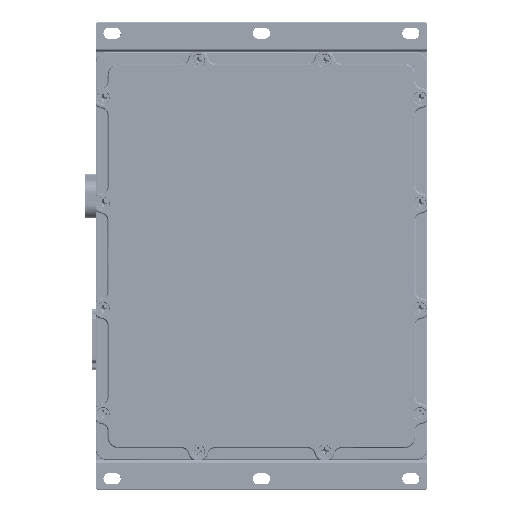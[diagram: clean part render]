
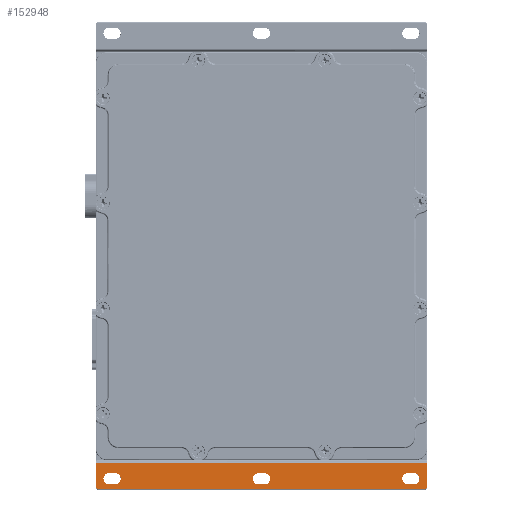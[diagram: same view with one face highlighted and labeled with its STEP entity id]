
A CAD part, top view. The second image highlights one B-rep face of the part: STEP entity #152948.
In plain terms, the highlighted planar face has unit normal (0.018, 0, 1).
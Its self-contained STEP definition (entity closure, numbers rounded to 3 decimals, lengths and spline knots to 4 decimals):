
#1135=ELLIPSE('',#164678,0.04,0.04);
#1136=ELLIPSE('',#164679,0.04,0.04);
#5900=FACE_BOUND('',#22569,.T.);
#5901=FACE_BOUND('',#22570,.T.);
#5902=FACE_BOUND('',#22571,.T.);
#8033=PLANE('',#164677);
#12880=FACE_OUTER_BOUND('',#22568,.T.);
#22568=EDGE_LOOP('',(#111337,#111338,#111339,#111340,#111341,#111342));
#22569=EDGE_LOOP('',(#111343,#111344,#111345,#111346));
#22570=EDGE_LOOP('',(#111347,#111348,#111349,#111350));
#22571=EDGE_LOOP('',(#111351,#111352,#111353,#111354));
#35049=LINE('',#326389,#44349);
#35050=LINE('',#326391,#44350);
#35051=LINE('',#326393,#44351);
#35052=LINE('',#326397,#44352);
#35053=LINE('',#326403,#44353);
#35054=LINE('',#326406,#44354);
#35055=LINE('',#326411,#44355);
#35056=LINE('',#326414,#44356);
#35057=LINE('',#326419,#44357);
#35058=LINE('',#326422,#44358);
#44349=VECTOR('',#192032,0.3937);
#44350=VECTOR('',#192033,0.3937);
#44351=VECTOR('',#192034,0.3937);
#44352=VECTOR('',#192037,0.3937);
#44353=VECTOR('',#192042,0.3937);
#44354=VECTOR('',#192045,0.3937);
#44355=VECTOR('',#192048,0.3937);
#44356=VECTOR('',#192051,0.3937);
#44357=VECTOR('',#192054,0.3937);
#44358=VECTOR('',#192057,0.3937);
#52292=CIRCLE('',#164680,0.135);
#52293=CIRCLE('',#164681,0.135);
#52294=CIRCLE('',#164682,0.135);
#52295=CIRCLE('',#164683,0.135);
#52296=CIRCLE('',#164684,0.135);
#52297=CIRCLE('',#164685,0.135);
#63062=VERTEX_POINT('',#326387);
#63063=VERTEX_POINT('',#326388);
#63064=VERTEX_POINT('',#326390);
#63065=VERTEX_POINT('',#326392);
#63066=VERTEX_POINT('',#326394);
#63067=VERTEX_POINT('',#326396);
#63068=VERTEX_POINT('',#326399);
#63069=VERTEX_POINT('',#326400);
#63070=VERTEX_POINT('',#326402);
#63071=VERTEX_POINT('',#326404);
#63072=VERTEX_POINT('',#326407);
#63073=VERTEX_POINT('',#326408);
#63074=VERTEX_POINT('',#326410);
#63075=VERTEX_POINT('',#326412);
#63076=VERTEX_POINT('',#326415);
#63077=VERTEX_POINT('',#326416);
#63078=VERTEX_POINT('',#326418);
#63079=VERTEX_POINT('',#326420);
#79652=EDGE_CURVE('',#63062,#63063,#35049,.T.);
#79653=EDGE_CURVE('',#63064,#63062,#35050,.T.);
#79654=EDGE_CURVE('',#63065,#63064,#35051,.T.);
#79655=EDGE_CURVE('',#63066,#63065,#1135,.T.);
#79656=EDGE_CURVE('',#63067,#63066,#35052,.T.);
#79657=EDGE_CURVE('',#63063,#63067,#1136,.T.);
#79658=EDGE_CURVE('',#63068,#63069,#52292,.T.);
#79659=EDGE_CURVE('',#63069,#63070,#35053,.T.);
#79660=EDGE_CURVE('',#63070,#63071,#52293,.T.);
#79661=EDGE_CURVE('',#63071,#63068,#35054,.T.);
#79662=EDGE_CURVE('',#63072,#63073,#52294,.T.);
#79663=EDGE_CURVE('',#63073,#63074,#35055,.T.);
#79664=EDGE_CURVE('',#63074,#63075,#52295,.T.);
#79665=EDGE_CURVE('',#63075,#63072,#35056,.T.);
#79666=EDGE_CURVE('',#63076,#63077,#52296,.T.);
#79667=EDGE_CURVE('',#63077,#63078,#35057,.T.);
#79668=EDGE_CURVE('',#63078,#63079,#52297,.T.);
#79669=EDGE_CURVE('',#63079,#63076,#35058,.T.);
#111337=ORIENTED_EDGE('',*,*,#79652,.F.);
#111338=ORIENTED_EDGE('',*,*,#79653,.F.);
#111339=ORIENTED_EDGE('',*,*,#79654,.F.);
#111340=ORIENTED_EDGE('',*,*,#79655,.F.);
#111341=ORIENTED_EDGE('',*,*,#79656,.F.);
#111342=ORIENTED_EDGE('',*,*,#79657,.F.);
#111343=ORIENTED_EDGE('',*,*,#79658,.T.);
#111344=ORIENTED_EDGE('',*,*,#79659,.T.);
#111345=ORIENTED_EDGE('',*,*,#79660,.T.);
#111346=ORIENTED_EDGE('',*,*,#79661,.T.);
#111347=ORIENTED_EDGE('',*,*,#79662,.T.);
#111348=ORIENTED_EDGE('',*,*,#79663,.T.);
#111349=ORIENTED_EDGE('',*,*,#79664,.T.);
#111350=ORIENTED_EDGE('',*,*,#79665,.T.);
#111351=ORIENTED_EDGE('',*,*,#79666,.T.);
#111352=ORIENTED_EDGE('',*,*,#79667,.T.);
#111353=ORIENTED_EDGE('',*,*,#79668,.T.);
#111354=ORIENTED_EDGE('',*,*,#79669,.T.);
#152948=ADVANCED_FACE('',(#12880,#5900,#5901,#5902),#8033,.F.);
#164677=AXIS2_PLACEMENT_3D('',#326386,#192030,#192031);
#164678=AXIS2_PLACEMENT_3D('',#326395,#192035,#192036);
#164679=AXIS2_PLACEMENT_3D('',#326398,#192038,#192039);
#164680=AXIS2_PLACEMENT_3D('',#326401,#192040,#192041);
#164681=AXIS2_PLACEMENT_3D('',#326405,#192043,#192044);
#164682=AXIS2_PLACEMENT_3D('',#326409,#192046,#192047);
#164683=AXIS2_PLACEMENT_3D('',#326413,#192049,#192050);
#164684=AXIS2_PLACEMENT_3D('',#326417,#192052,#192053);
#164685=AXIS2_PLACEMENT_3D('',#326421,#192055,#192056);
#192030=DIRECTION('center_axis',(-0.017,0.,
-1.));
#192031=DIRECTION('ref_axis',(0.,1.,0.));
#192032=DIRECTION('',(0.,-1.,0.));
#192033=DIRECTION('',(1.,0.,-0.017));
#192034=DIRECTION('',(0.,1.,0.));
#192035=DIRECTION('center_axis',(-0.017,0.,
-1.));
#192036=DIRECTION('ref_axis',(-0.894,-0.447,0.016));
#192037=DIRECTION('',(-1.,0.,0.017));
#192038=DIRECTION('center_axis',(-0.017,0.,
-1.));
#192039=DIRECTION('ref_axis',(0.894,-0.447,-0.016));
#192040=DIRECTION('center_axis',(-0.017,0.,
-1.));
#192041=DIRECTION('ref_axis',(0.,1.,0.));
#192042=DIRECTION('',(1.,0.,-0.017));
#192043=DIRECTION('center_axis',(-0.017,0.,
-1.));
#192044=DIRECTION('ref_axis',(0.,-1.,0.));
#192045=DIRECTION('',(-1.,0.,0.017));
#192046=DIRECTION('center_axis',(-0.017,0.,
-1.));
#192047=DIRECTION('ref_axis',(0.,1.,0.));
#192048=DIRECTION('',(1.,0.,-0.017));
#192049=DIRECTION('center_axis',(-0.017,0.,
-1.));
#192050=DIRECTION('ref_axis',(0.,-1.,0.));
#192051=DIRECTION('',(-1.,0.,0.017));
#192052=DIRECTION('center_axis',(-0.017,0.,
-1.));
#192053=DIRECTION('ref_axis',(0.,1.,0.));
#192054=DIRECTION('',(1.,0.,-0.017));
#192055=DIRECTION('center_axis',(-0.017,0.,
-1.));
#192056=DIRECTION('ref_axis',(0.,-1.,0.));
#192057=DIRECTION('',(-1.,0.,0.017));
#326386=CARTESIAN_POINT('Origin',(3.411,-1.3086,2.3125));
#326387=CARTESIAN_POINT('',(7.3328,-0.6776,2.2441));
#326388=CARTESIAN_POINT('',(7.3328,-1.2483,2.2441));
#326389=CARTESIAN_POINT('',(7.3328,1.4707,2.2441));
#326390=CARTESIAN_POINT('',(-0.5108,-0.6776,2.381));
#326391=CARTESIAN_POINT('',(3.411,-0.6776,2.3125));
#326392=CARTESIAN_POINT('',(-0.5108,-1.2483,2.381));
#326393=CARTESIAN_POINT('',(-0.5108,1.4707,2.381));
#326394=CARTESIAN_POINT('',(-0.4708,-1.2882,2.3803));
#326395=CARTESIAN_POINT('Origin',(-0.4707,-1.2482,
2.3803));
#326396=CARTESIAN_POINT('',(7.2928,-1.2882,2.2448));
#326397=CARTESIAN_POINT('',(3.411,-1.2882,2.3125));
#326398=CARTESIAN_POINT('Origin',(7.2927,-1.2482,2.2448));
#326399=CARTESIAN_POINT('',(-0.2084,-1.1772,2.3757));
#326400=CARTESIAN_POINT('',(-0.2084,-0.9072,2.3757));
#326401=CARTESIAN_POINT('Origin',(-0.2084,-1.0422,
2.3757));
#326402=CARTESIAN_POINT('',(-0.0685,-0.9072,2.3733));
#326403=CARTESIAN_POINT('',(1.6013,-0.9072,2.3441));
#326404=CARTESIAN_POINT('',(-0.0685,-1.1772,2.3733));
#326405=CARTESIAN_POINT('Origin',(-0.0685,-1.0422,
2.3733));
#326406=CARTESIAN_POINT('',(1.6713,-1.1772,2.3429));
#326407=CARTESIAN_POINT('',(6.8905,-1.1772,2.2518));
#326408=CARTESIAN_POINT('',(6.8905,-0.9072,2.2518));
#326409=CARTESIAN_POINT('Origin',(6.8905,-1.0422,2.2518));
#326410=CARTESIAN_POINT('',(7.0304,-0.9072,2.2494));
#326411=CARTESIAN_POINT('',(5.1507,-0.9072,2.2822));
#326412=CARTESIAN_POINT('',(7.0304,-1.1772,2.2494));
#326413=CARTESIAN_POINT('Origin',(7.0304,-1.0422,2.2494));
#326414=CARTESIAN_POINT('',(5.2207,-1.1772,2.281));
#326415=CARTESIAN_POINT('',(3.341,-1.1772,2.3138));
#326416=CARTESIAN_POINT('',(3.341,-0.9072,2.3138));
#326417=CARTESIAN_POINT('Origin',(3.341,-1.0422,2.3138));
#326418=CARTESIAN_POINT('',(3.481,-0.9072,2.3113));
#326419=CARTESIAN_POINT('',(3.376,-0.9072,2.3132));
#326420=CARTESIAN_POINT('',(3.481,-1.1772,2.3113));
#326421=CARTESIAN_POINT('Origin',(3.481,-1.0422,2.3113));
#326422=CARTESIAN_POINT('',(3.446,-1.1772,2.3119));
